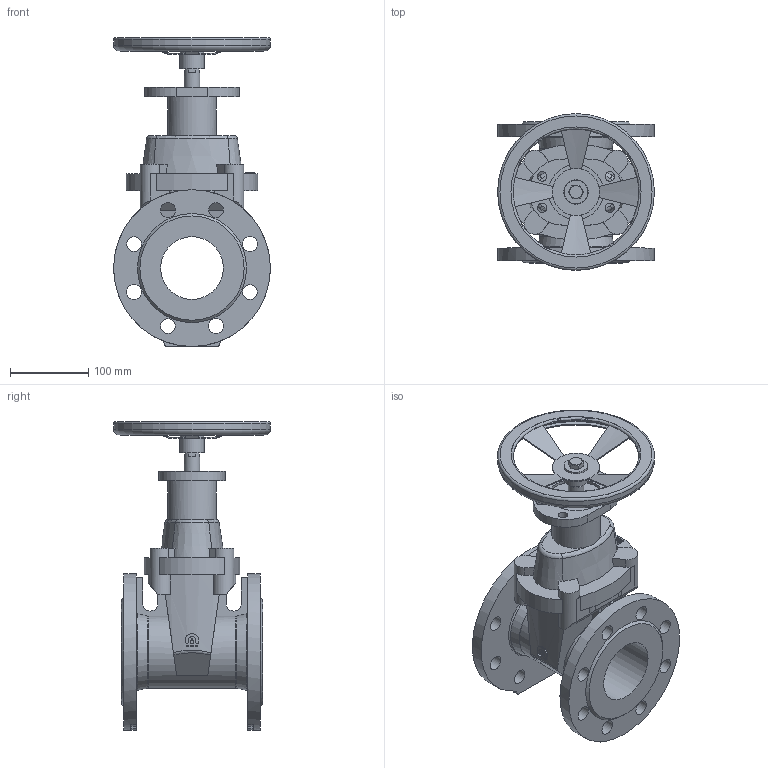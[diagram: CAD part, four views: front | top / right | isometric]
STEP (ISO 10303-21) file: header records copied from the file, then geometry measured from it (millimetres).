
FILE_DESCRIPTION(('STEP AP203'), '1');
FILE_NAME('Çàäâèæêà 47GV.M DN80 ñ ìàõîâèêîì', '', ('UNSPECIFIED'), ('UNSPECIFIED'), 'ASCON STEP Converter 1.6', 'ASCON Math Kernel', '');
FILE_SCHEMA(('CONFIG_CONTROL_DESIGN'));
Length unit declared in the file: millimetre
Bounding box: 200 x 200 x 394 mm (x, y, z)
Volume: 2805086.8 mm3; surface area: 391141.1 mm2
Topology: 1 solids, 1 shells, 258 faces, 675 edges, 430 vertices
Faces by surface type: plane 131, cylinder 87, cone 24, torus 14, bspline 2
Full cylindrical faces by diameter (mm): 12 x4, 19 x16, 20 x1, 30 x1, 31 x1, 62 x1, 70 x1, 80 x1, 163 x1, 197 x1, 200 x3
Entity records: 11494 total; most frequent: CARTESIAN_POINT 3138, DIRECTION 1304, ORIENTED_EDGE 1264, EDGE_CURVE 632, AXIS2_PLACEMENT_3D 511, VERTEX_POINT 430, EDGE_LOOP 362, FACE_BOUND 283
